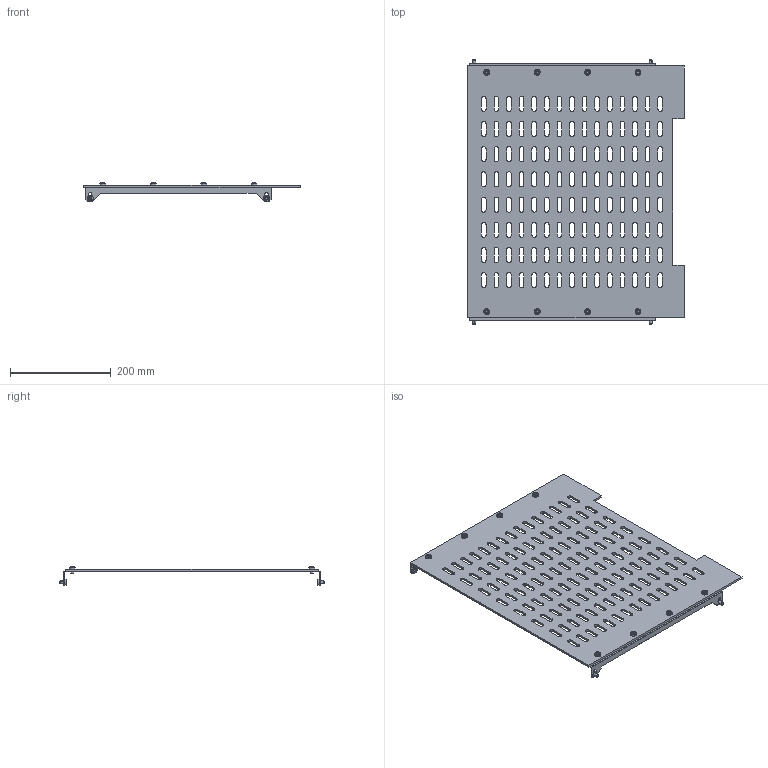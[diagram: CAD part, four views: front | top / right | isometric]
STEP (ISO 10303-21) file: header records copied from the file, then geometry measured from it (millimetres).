
FILE_DESCRIPTION (( 'STEP AP214' ), '1' );
FILE_NAME ('FO-00-3BDW-060-040 Êîìïëåêò ñåêöèîíèðîâàíèÿ 3b äëÿ ARMAT ACB òèïîðàçìåð D âûêàòíîãî èñïîëíåíèÿ 3P 600õ400 â øêàô ãëóáèíîé 800 ìì.STEP', '2025-08-12T07:09:36', ( '' ), ( '' ), 'SwSTEP 2.0', 'SolidWorks 2023', '' );
FILE_SCHEMA (( 'AUTOMOTIVE_DESIGN' ));
Length unit declared in the file: millimetre
Products named in the file (3): FO-00-3BDW-060-040 Комплект секционирования 3b для ARMAT ACB типоразмер D выкатного исполнения 3P 600х400 в шкаф глубиной 800 мм; 2хМ6х10х400; Комплект секционирования 3b для ARMAT ACB типоразмер D выкатного исполнения 3P 600х400 в шкаф глубиной 800 мм
Assembly tree (3 placements, depth 2):
  FO-00-3BDW-060-040 Комплект секционирования 3b для ARMAT ACB типоразмер D выкатного исполнения 3P 600х400 в шкаф глубиной 800 мм
    Комплект секционирования 3b для ARMAT ACB типоразмер D выкатного исполнения 3P 600х400 в шкаф глубиной 800 мм
    2хМ6х10х400  x2
Bounding box: 430 x 525 x 37 mm (x, y, z)
Volume: 762193.2 mm3; surface area: 429136 mm2
Topology: 5 solids, 13 shells, 950 faces, 2596 edges, 1700 vertices
Faces by surface type: cylinder 512, plane 350, cone 40, torus 40, sphere 8
Entity records: 29395 total; most frequent: DIRECTION 5254, CARTESIAN_POINT 5104, ORIENTED_EDGE 4916, EDGE_CURVE 2458, AXIS2_PLACEMENT_3D 1930, VERTEX_POINT 1612, VECTOR 1394, LINE 1394
